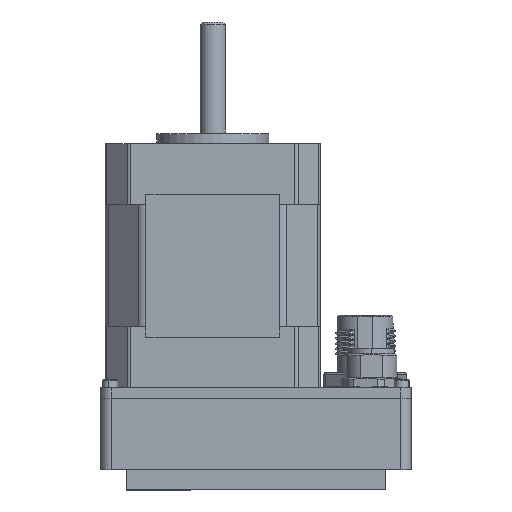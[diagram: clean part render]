
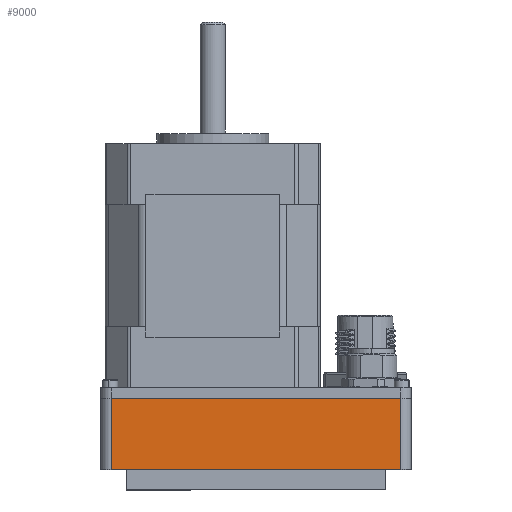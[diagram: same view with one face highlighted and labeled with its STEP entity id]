
A CAD part, top view. The second image highlights one B-rep face of the part: STEP entity #9000.
In plain terms, the highlighted planar face has unit normal (0, 0, 1) as drawn and (0, 1, 0) by its records, which use the part's own axes.
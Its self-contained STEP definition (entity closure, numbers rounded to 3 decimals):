
#1687 = CARTESIAN_POINT ( 'NONE',  ( 59., 45., 14. ) ) ;
#2470 = CARTESIAN_POINT ( 'NONE',  ( 59., 45., 0. ) ) ;
#3411 = DIRECTION ( 'NONE',  ( -1., 0., 0. ) ) ;
#3882 = AXIS2_PLACEMENT_3D ( 'NONE', #84739, #38921, #92347 ) ;
#8584 = LINE ( 'NONE', #94836, #49302 ) ;
#8865 = ORIENTED_EDGE ( 'NONE', *, *, #26334, .F. ) ;
#9000 = ADVANCED_FACE ( 'NONE', ( #11095 ), #46324, .F. ) ;
#9585 = VERTEX_POINT ( 'NONE', #1687 ) ;
#10837 = VERTEX_POINT ( 'NONE', #2470 ) ;
#11095 = FACE_OUTER_BOUND ( 'NONE', #15316, .T. ) ;
#13661 = LINE ( 'NONE', #64285, #72401 ) ;
#14717 = CARTESIAN_POINT ( 'NONE',  ( 2., 45., 14. ) ) ;
#15316 = EDGE_LOOP ( 'NONE', ( #38180, #94628, #8865, #18384 ) ) ;
#15441 = CARTESIAN_POINT ( 'NONE',  ( 2., 45., 0. ) ) ;
#18384 = ORIENTED_EDGE ( 'NONE', *, *, #74747, .T. ) ;
#22069 = DIRECTION ( 'NONE',  ( -1., 0., 0. ) ) ;
#26334 = EDGE_CURVE ( 'NONE', #9585, #70197, #44993, .T. ) ;
#27367 = EDGE_CURVE ( 'NONE', #70197, #80175, #86407, .T. ) ;
#38180 = ORIENTED_EDGE ( 'NONE', *, *, #96588, .T. ) ;
#38921 = DIRECTION ( 'NONE',  ( 0., -1., 0. ) ) ;
#41568 = CARTESIAN_POINT ( 'NONE',  ( 2., 45., 14. ) ) ;
#43474 = CARTESIAN_POINT ( 'NONE',  ( 2., 45., 14. ) ) ;
#44993 = LINE ( 'NONE', #14717, #85662 ) ;
#45746 = VECTOR ( 'NONE', #56955, 1000. ) ;
#46324 = PLANE ( 'NONE',  #3882 ) ;
#49302 = VECTOR ( 'NONE', #3411, 1000. ) ;
#56955 = DIRECTION ( 'NONE',  ( 0., 0., -1. ) ) ;
#64285 = CARTESIAN_POINT ( 'NONE',  ( 59., 45., 14. ) ) ;
#70197 = VERTEX_POINT ( 'NONE', #43474 ) ;
#72401 = VECTOR ( 'NONE', #79909, 1000. ) ;
#74747 = EDGE_CURVE ( 'NONE', #9585, #10837, #13661, .T. ) ;
#79909 = DIRECTION ( 'NONE',  ( 0., 0., -1. ) ) ;
#80175 = VERTEX_POINT ( 'NONE', #15441 ) ;
#84739 = CARTESIAN_POINT ( 'NONE',  ( 2., 45., 14. ) ) ;
#85662 = VECTOR ( 'NONE', #22069, 1000. ) ;
#86407 = LINE ( 'NONE', #41568, #45746 ) ;
#92347 = DIRECTION ( 'NONE',  ( 0., 0., -1. ) ) ;
#94628 = ORIENTED_EDGE ( 'NONE', *, *, #27367, .F. ) ;
#94836 = CARTESIAN_POINT ( 'NONE',  ( 2., 45., 0. ) ) ;
#96588 = EDGE_CURVE ( 'NONE', #10837, #80175, #8584, .T. ) ;
